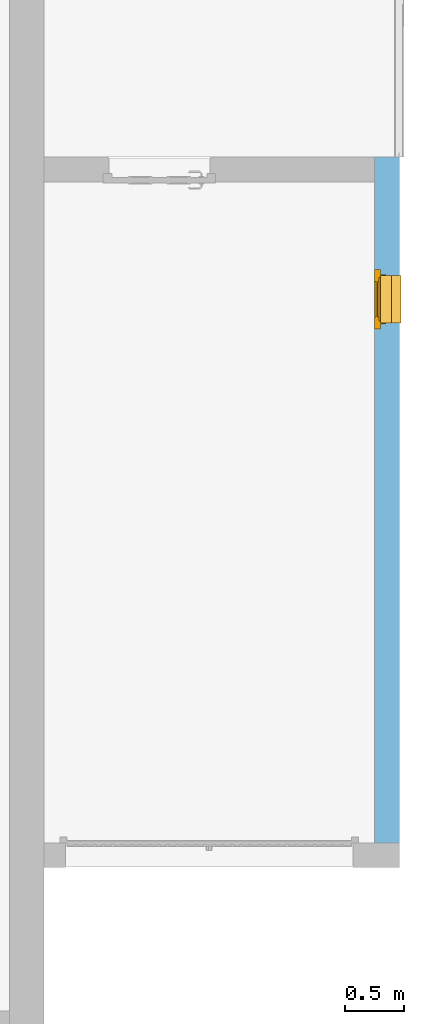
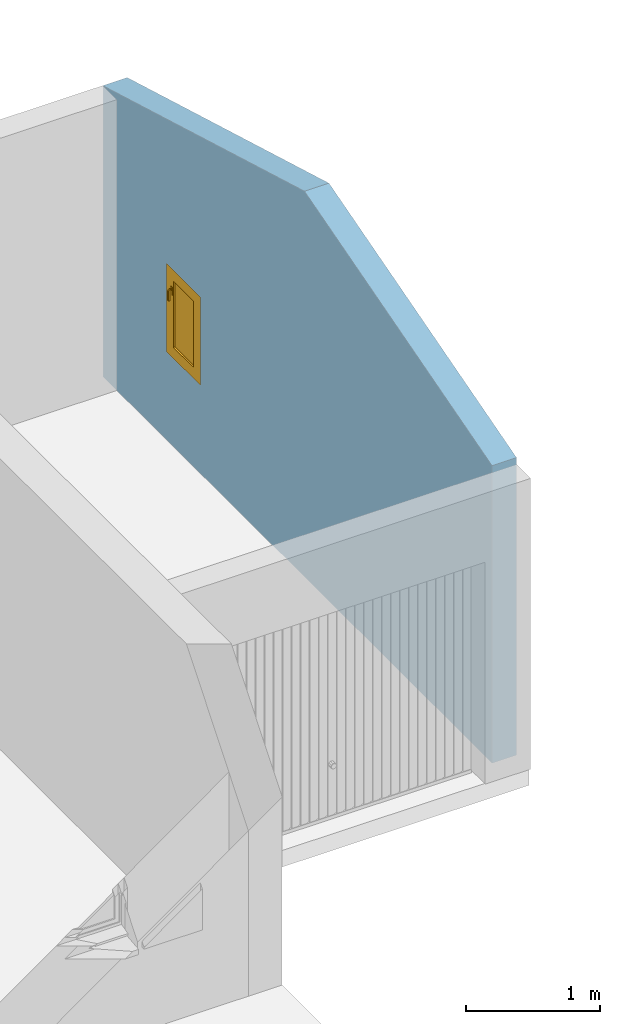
# One storey, part 6 of 6: 1 window, 1 opening, plus 1 element that does not belong to this part.
"""IFC2X3 building model written with IfcOpenShell, lengths in metres."""

from ifc_helpers import new_model, entity, si_unit, converted_unit, derived_unit, direction, frame, frame_2d, origin, place, context, subcontext, project, spatial, polyline, rectangle, extrude, clip, bounded_halfspace, faceted_brep, source, transform, mapped, material, material_list, layer, layer_set, layer_usage, type_object, type_shapes, element, fill, save


model = new_model("IFC2X3")

# Units and contexts
model_context = context("Model", 3, precision=1e-05, world=origin(), true_north=direction((6.12303176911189e-17, 1.0)))
context_of_model = context(None, 3, precision=1e-05, world=origin(), true_north=direction((6.12303176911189e-17, 1.0)))
body_context = subcontext(model_context, "Body", "Model", "MODEL_VIEW")
ifc_project = project(units=[si_unit("LENGTHUNIT", "METRE"), si_unit("AREAUNIT", "SQUARE_METRE"), si_unit("VOLUMEUNIT", "CUBIC_METRE"), converted_unit("PLANEANGLEUNIT", "DEGREE", entity("IfcRatioMeasure", 0.0174532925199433), si_unit("PLANEANGLEUNIT", "RADIAN"), dimensions=[0, 0, 0, 0, 0, 0, 0]), si_unit("MASSUNIT", "GRAM", prefix="KILO"), si_unit("TIMEUNIT", "SECOND"), si_unit("FREQUENCYUNIT", "HERTZ"), si_unit("THERMODYNAMICTEMPERATUREUNIT", "DEGREE_CELSIUS"), derived_unit("THERMALTRANSMITTANCEUNIT", [(si_unit("MASSUNIT", "GRAM", prefix="KILO"), 1), (si_unit("THERMODYNAMICTEMPERATUREUNIT", "KELVIN"), -1), (si_unit("TIMEUNIT", "SECOND"), -3)]), derived_unit("VOLUMETRICFLOWRATEUNIT", [(si_unit("LENGTHUNIT", "METRE"), 3), (si_unit("TIMEUNIT", "SECOND"), -1)]), si_unit("ELECTRICCURRENTUNIT", "AMPERE"), si_unit("ELECTRICVOLTAGEUNIT", "VOLT"), si_unit("POWERUNIT", "WATT"), si_unit("FORCEUNIT", "NEWTON", prefix="KILO"), si_unit("ILLUMINANCEUNIT", "LUX"), si_unit("LUMINOUSFLUXUNIT", "LUMEN"), si_unit("LUMINOUSINTENSITYUNIT", "CANDELA"), si_unit("PRESSUREUNIT", "PASCAL")], contexts=[model_context, context_of_model])

# Site, building, storey
site_placement = place(None, origin())
site = spatial("IfcSite", under=ifc_project, at=site_placement, Name="Surface", CompositionType="ELEMENT")
building_placement = place(site_placement, origin())
building = spatial("IfcBuilding", under=site, at=building_placement, CompositionType="ELEMENT")
storey_placement = place(building_placement, origin())
storey = spatial("IfcBuildingStorey", under=building, at=storey_placement, Name="Niveau 0", CompositionType="ELEMENT", Elevation=-1.94916083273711e-14)

# Wall, opening, window
ifc_material_1 = material(Name="Maçonnerie - Enduit")
ifc_layer_1 = layer(ifc_material_1, 0.01)
ifc_material_2 = material(Name="Eléments de maçonnerie en béton")
ifc_layer_2 = layer(ifc_material_2, 0.2)
ifc_layer_set = layer_set([ifc_layer_1, ifc_layer_2], Name="Mur de base:Ext. Parpaing 20")
ifc_layer_usage = layer_usage(ifc_layer_set, "AXIS2", "POSITIVE", -0.105)
wall_type = type_object("IfcWallType", Name="Mur de base:Ext. Parpaing 20", PredefinedType="STANDARD", material=ifc_layer_set)
wall_placement = place(storey_placement, frame((0.0959083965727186, -5.64858265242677, 0.0), z_axis=(0.0, 0.0, 1.0), x_axis=(0.0, 1.0, 0.0)))
wall = element("IfcWallStandardCase", 1, at=wall_placement, inside=storey, type_object=wall_type, material=ifc_layer_usage, Name="Mur de base:Ext. Parpaing 20", ObjectType="Mur de base:Ext. Parpaing 20", context=body_context, shape_type="Clipping", body=[
    clip(clip(extrude(rectangle(XDim=5.79, YDim=0.21, at=frame_2d((2.895, 1.38777878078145e-17), x_axis=(-1.0, 0.0))), origin(), (0.0, 0.0, 1.0), 3.50023615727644), bounded_halfspace(frame((0.0, -0.105, 2.70021653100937), z_axis=(-0.275637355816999, 0.0, 0.961261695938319), x_axis=(0.0, -1.0, 0.0)), False, frame((0.0, -0.105, 2.70021653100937)), polyline([(0.0, 0.0), (2.79, 0.0), (2.79, 0.21), (0.0, 0.21), (0.0, 0.0)]))), bounded_halfspace(frame((2.79, -0.105, 3.50023615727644), z_axis=(0.275637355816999, 0.0, 0.961261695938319), x_axis=(0.0, 1.0, 0.0)), False, frame((2.79, -0.105, 3.50023615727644)), polyline([(0.0, 0.0), (3.0, 0.0), (3.0, 0.21), (0.0, 0.21), (0.0, 0.0)]))),
])
opening_placement = place(wall_placement, frame((4.34, 0.499999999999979, 0.72), z_axis=(0.0, 0.0, 1.0), x_axis=(0.0, -1.0, 0.0)))
opening = element("IfcOpeningElement", 2, at=opening_placement, cuts=wall, Name="Mur de base:Ext. Parpaing 20", ObjectType="Opening", context=body_context, shape_type="Brep", body=[
    faceted_brep([(0.474999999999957, 0.45, 0.0799999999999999), (0.495000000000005, 0.45, 0.0799999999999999), (0.495000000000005, 0.45, 0.83), (1.0, 0.449999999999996, 0.83), (1.0, 0.449999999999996, 0.0), (0.474999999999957, 0.45, 0.0), (0.0, 0.0500000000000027, 0.0799999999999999), (0.395, 0.05, 0.0799999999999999), (0.395, 0.05, 0.83), (0.0, 0.0500000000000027, 0.83), (0.0, 0.450000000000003, 0.0799999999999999), (0.395000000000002, 0.45, 0.0799999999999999), (0.395000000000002, 0.5, 0.0799999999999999), (0.445000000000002, 0.499999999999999, 0.0799999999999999), (0.445000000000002, 0.46, 0.0799999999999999), (0.495000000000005, 0.459999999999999, 0.0799999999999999), (0.474999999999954, 0.0499999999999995, 0.0799999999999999), (0.495000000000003, 0.0499999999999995, 0.0799999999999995), (0.495000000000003, 0.0399999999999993, 0.0799999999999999), (0.445, 0.0399999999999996, 0.0799999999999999), (0.444999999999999, 0.0, 0.0799999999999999), (0.395, 0.0, 0.0799999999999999), (0.0, 0.450000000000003, 0.83), (0.495000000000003, 0.0499999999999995, 0.83), (1.0, 0.0499999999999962, 0.83), (1.0, 0.0499999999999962, 0.0), (0.474999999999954, 0.0499999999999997, 0.0), (0.395000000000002, 0.5, 0.879999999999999), (0.445000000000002, 0.499999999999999, 0.879999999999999), (0.444999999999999, 0.0, 0.879999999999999), (0.445, 0.0399999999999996, 0.84), (0.445000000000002, 0.46, 0.84), (0.495000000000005, 0.459999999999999, 0.84), (0.495000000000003, 0.0399999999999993, 0.84), (0.395000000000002, 0.45, 0.83), (0.395, 0.0, 0.879999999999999)], [[[0, 1, 2, 3, 4, 5]], [[6, 7, 8, 9]], [[10, 11, 12, 13, 14, 15, 1, 0, 16, 17, 18, 19, 20, 21, 7, 6]], [[10, 6, 9, 22]], [[3, 2, 23, 24]], [[3, 24, 25, 4]], [[4, 25, 26, 5]], [[5, 26, 16, 0]], [[12, 27, 28, 13]], [[13, 28, 29, 20, 19, 30, 31, 14]], [[14, 31, 32, 15]], [[15, 32, 33, 18, 17, 23, 2, 1]], [[11, 34, 8, 7, 21, 35, 27, 12]], [[27, 35, 29, 28]], [[30, 33, 32, 31]], [[29, 35, 21, 20]], [[19, 18, 33, 30]], [[9, 8, 34, 22]], [[24, 23, 17, 16, 26, 25]], [[22, 34, 11, 10]]]),
])
ifc_material_3 = material(Name="Fenêtre - Poignée")
ifc_material_4 = material(Name="Fenêtre - Appui")
ifc_material_5 = material(Name="Fenêtre - Vitrage")
ifc_material_6 = material(Name="Fenêtre - Cadre")
ifc_material_list_1 = material_list([ifc_material_3, ifc_material_4, ifc_material_5, ifc_material_6])
ifc_material_list_2 = material_list([ifc_material_3, ifc_material_4, ifc_material_5, ifc_material_6])
window_style = type_object("IfcWindowStyle", Name="0.40m x 0.75m - Appui Béton", ConstructionType="NOTDEFINED", OperationType="NOTDEFINED", ParameterTakesPrecedence=False, Sizeable=False, material=ifc_material_list_2)
shared_shape = source(origin(), body_context, "Body", "Brep", [
    faceted_brep([(0.0806460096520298, 0.388999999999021, 0.702033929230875), (0.08203392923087, 0.388999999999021, 0.700646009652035), (0.08203392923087, 0.388999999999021, 0.68933230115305), (0.0806676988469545, 0.388999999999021, 0.687966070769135), (0.0693323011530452, 0.388999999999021, 0.687966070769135), (0.0679660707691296, 0.388999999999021, 0.689332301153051), (0.0679660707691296, 0.388999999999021, 0.700646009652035), (0.0693539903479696, 0.388999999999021, 0.702033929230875), (0.0806460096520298, 0.376086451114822, 0.702033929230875), (0.0820339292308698, 0.376661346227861, 0.700646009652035), (0.08203392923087, 0.363353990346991, 0.687338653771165), (0.08203392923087, 0.363353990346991, 0.600000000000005), (0.08203392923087, 0.374667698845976, 0.600000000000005), (0.08203392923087, 0.374667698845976, 0.68265236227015), (0.08203392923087, 0.381347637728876, 0.689332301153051), (0.0806676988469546, 0.38191354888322, 0.687966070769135), (0.0693323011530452, 0.38191354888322, 0.687966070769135), (0.0679660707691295, 0.381347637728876, 0.689332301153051), (0.0679660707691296, 0.374667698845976, 0.68265236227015), (0.0679660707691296, 0.374667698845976, 0.600000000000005), (0.0679660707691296, 0.363353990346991, 0.600000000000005), (0.0679660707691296, 0.363353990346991, 0.687338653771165), (0.0679660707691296, 0.376661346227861, 0.700646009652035), (0.0693539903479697, 0.376086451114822, 0.702033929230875), (0.0806460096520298, 0.361966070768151, 0.687913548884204), (0.0806676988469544, 0.376033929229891, 0.682086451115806), (0.0693323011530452, 0.376033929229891, 0.682086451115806), (0.0693539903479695, 0.361966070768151, 0.687913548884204), (0.0806460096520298, 0.361966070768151, 0.600000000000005), (0.0693539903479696, 0.361966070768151, 0.600000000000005), (0.0693323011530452, 0.376033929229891, 0.600000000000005), (0.0806676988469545, 0.376033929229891, 0.600000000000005)], [[[0, 1, 2, 3, 4, 5, 6, 7]], [[1, 0, 8, 9]], [[2, 1, 9, 10, 11, 12, 13, 14]], [[3, 2, 14, 15]], [[4, 3, 15, 16]], [[5, 4, 16, 17]], [[6, 5, 17, 18, 19, 20, 21, 22]], [[7, 6, 22, 23]], [[0, 7, 23, 8]], [[9, 8, 24, 10]], [[15, 14, 13, 25]], [[16, 15, 25, 26]], [[17, 16, 26, 18]], [[23, 22, 21, 27]], [[8, 23, 27, 24]], [[28, 29, 20, 19, 30, 31, 12, 11]], [[10, 24, 28, 11]], [[25, 13, 12, 31]], [[26, 25, 31, 30]], [[18, 26, 30, 19]], [[27, 21, 20, 29]], [[24, 27, 29, 28]]]),
    faceted_brep([(0.0820000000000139, 0.389, 0.720000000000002), (0.0679999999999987, 0.389, 0.720000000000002), (0.0629999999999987, 0.389, 0.715000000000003), (0.0629999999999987, 0.389, 0.644999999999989), (0.0679999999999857, 0.389, 0.640000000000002), (0.0820000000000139, 0.389, 0.640000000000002), (0.0869999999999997, 0.389, 0.644999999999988), (0.0869999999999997, 0.389, 0.715000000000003), (0.0820000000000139, 0.395, 0.720000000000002), (0.0869999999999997, 0.395, 0.715000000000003), (0.0869999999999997, 0.395, 0.644999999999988), (0.0820000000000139, 0.395, 0.640000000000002), (0.0679999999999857, 0.395, 0.640000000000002), (0.0629999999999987, 0.395, 0.644999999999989), (0.0629999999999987, 0.395, 0.715000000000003), (0.0679999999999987, 0.395, 0.720000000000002)], [[[0, 1, 2, 3, 4, 5, 6, 7]], [[8, 9, 10, 11, 12, 13, 14, 15]], [[1, 0, 8, 15]], [[2, 1, 15, 14]], [[3, 2, 14, 13]], [[4, 3, 13, 12]], [[5, 4, 12, 11]], [[6, 5, 11, 10]], [[7, 6, 10, 9]], [[0, 7, 9, 8]]]),
    faceted_brep([(0.0499999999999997, 0.475000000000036, 0.0799999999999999), (0.0499999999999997, 0.525000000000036, 0.0799999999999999), (0.0499999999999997, 0.525000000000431, 0.0650000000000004), (0.0499999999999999, 0.620000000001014, 0.0550150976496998), (0.0499999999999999, 0.620000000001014, 0.0), (0.0499999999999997, 0.475000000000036, 0.0), (0.45, 0.475000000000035, 0.0799999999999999), (0.45, 0.475000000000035, 0.0), (0.45, 0.620000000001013, 0.0), (0.45, 0.620000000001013, 0.0550150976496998), (0.45, 0.525000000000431, 0.0650000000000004), (0.45, 0.525000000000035, 0.0799999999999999)], [[[0, 1, 2, 3, 4, 5]], [[6, 7, 8, 9, 10, 11]], [[1, 0, 6, 11]], [[2, 1, 11, 10]], [[3, 2, 10, 9]], [[4, 3, 9, 8]], [[5, 4, 8, 7]], [[0, 5, 7, 6]]]),
    faceted_brep([(0.0999999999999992, 0.420999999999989, 0.18), (0.0999999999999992, 0.420999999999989, 0.78), (0.4, 0.420999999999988, 0.78), (0.4, 0.420999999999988, 0.18), (0.0999999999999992, 0.408999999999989, 0.18), (0.0999999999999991, 0.408999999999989, 0.78), (0.4, 0.408999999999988, 0.78), (0.4, 0.408999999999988, 0.18)], [[[0, 1, 2, 3]], [[1, 0, 4, 5]], [[3, 2, 6, 7]], [[0, 3, 7, 4]], [[4, 7, 6, 5]], [[2, 1, 5, 6]]]),
    faceted_brep([(0.0999999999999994, 0.434999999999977, 0.78), (0.0999999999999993, 0.39499999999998, 0.78), (0.0999999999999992, 0.39499999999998, 0.18), (0.0999999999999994, 0.434999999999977, 0.18), (0.4, 0.394999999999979, 0.18), (0.4, 0.434999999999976, 0.18), (0.4, 0.394999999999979, 0.78), (0.45, 0.394999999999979, 0.13), (0.45, 0.394999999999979, 0.83), (0.0499999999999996, 0.39499999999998, 0.83), (0.0499999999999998, 0.39499999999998, 0.13), (0.4, 0.434999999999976, 0.78), (0.05, 0.434999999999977, 0.13), (0.05, 0.434999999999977, 0.83), (0.449999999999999, 0.434999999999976, 0.83), (0.449999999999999, 0.434999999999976, 0.13)], [[[0, 1, 2, 3]], [[3, 2, 4, 5]], [[2, 1, 6, 4], [7, 8, 9, 10]], [[5, 4, 6, 11]], [[5, 11, 0, 3], [12, 13, 14, 15]], [[9, 13, 12, 10]], [[10, 12, 15, 7]], [[7, 15, 14, 8]], [[11, 6, 1, 0]], [[8, 14, 13, 9]]], outer=[[True], [True], [False, True], [True], [False, True], [True], [True], [True], [True], [True]]),
    faceted_brep([(0.0, 0.395, 0.0799999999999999), (0.0, 0.445, 0.0799999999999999), (0.0499999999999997, 0.445, 0.0799999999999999), (0.0499999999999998, 0.529999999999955, 0.0800000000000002), (0.45, 0.529999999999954, 0.0799999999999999), (0.45, 0.445, 0.0799999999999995), (0.499999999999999, 0.445, 0.0799999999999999), (0.499999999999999, 0.395, 0.0799999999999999), (0.0, 0.395, 0.879999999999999), (0.0, 0.445, 0.879999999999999), (0.499999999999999, 0.445, 0.879999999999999), (0.45, 0.445, 0.119376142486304), (0.0499999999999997, 0.445, 0.119376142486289), (0.0649999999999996, 0.445, 0.815), (0.0649999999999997, 0.445, 0.145), (0.435, 0.445, 0.145), (0.435, 0.445, 0.815), (0.0499999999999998, 0.539999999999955, 0.0939209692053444), (0.0499999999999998, 0.539999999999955, 0.0749999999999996), (0.0499999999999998, 0.529999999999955, 0.0749999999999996), (0.45, 0.529999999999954, 0.0749999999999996), (0.45, 0.539999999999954, 0.0749999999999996), (0.45, 0.539999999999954, 0.0939209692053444), (0.499999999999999, 0.395, 0.879999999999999), (0.45, 0.395, 0.83), (0.45, 0.395, 0.13), (0.0499999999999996, 0.395000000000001, 0.13), (0.0499999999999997, 0.395, 0.83), (0.0649999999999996, 0.435, 0.815), (0.0649999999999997, 0.435, 0.145), (0.435, 0.435, 0.145), (0.435, 0.435, 0.815), (0.45, 0.435, 0.83), (0.0499999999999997, 0.435, 0.83), (0.0499999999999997, 0.435, 0.13), (0.45, 0.435, 0.13)], [[[0, 1, 2, 3, 4, 5, 6, 7]], [[1, 0, 8, 9]], [[1, 9, 10, 6, 5, 11, 12, 2], [13, 14, 15, 16]], [[12, 17, 18, 19, 3, 2]], [[3, 19, 20, 4]], [[4, 20, 21, 22, 11, 5]], [[6, 10, 23, 7]], [[0, 7, 23, 8], [24, 25, 26, 27]], [[13, 28, 29, 14]], [[29, 30, 15, 14]], [[31, 16, 15, 30]], [[17, 12, 11, 22]], [[32, 33, 34, 35], [28, 31, 30, 29]], [[34, 33, 27, 26]], [[26, 25, 35, 34]], [[24, 32, 35, 25]], [[18, 17, 22, 21]], [[19, 18, 21, 20]], [[13, 16, 31, 28]], [[33, 32, 24, 27]], [[10, 9, 8, 23]]]),
    faceted_brep([(0.0499999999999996, 0.495000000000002, 0.0799999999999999), (0.0499999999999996, 0.444999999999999, 0.0799999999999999), (0.0399999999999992, 0.444999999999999, 0.0799999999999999), (0.0399999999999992, 0.495000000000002, 0.0799999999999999), (0.0499999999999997, 0.495000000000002, 0.83), (0.0499999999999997, 0.444999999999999, 0.83), (0.45, 0.444999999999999, 0.83), (0.45, 0.444999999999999, 0.0799999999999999), (0.46, 0.444999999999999, 0.0799999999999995), (0.46, 0.444999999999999, 0.84), (0.0399999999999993, 0.444999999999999, 0.84), (0.0399999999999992, 0.495000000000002, 0.84), (0.46, 0.495000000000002, 0.84), (0.46, 0.495000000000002, 0.0799999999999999), (0.45, 0.495000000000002, 0.0799999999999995), (0.45, 0.495000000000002, 0.83)], [[[0, 1, 2, 3]], [[1, 0, 4, 5]], [[2, 1, 5, 6, 7, 8, 9, 10]], [[3, 2, 10, 11]], [[0, 3, 11, 12, 13, 14, 15, 4]], [[6, 15, 14, 7]], [[14, 13, 8, 7]], [[12, 9, 8, 13]], [[5, 4, 15, 6]], [[11, 10, 9, 12]]]),
])
type_shapes(window_style, [shared_shape])
window_placement = place(storey_placement, frame((-0.40409160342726, -0.808582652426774, 0.72), z_axis=(0.0, 0.0, 1.0), x_axis=(0.0, -1.0, 0.0)))
window = element("IfcWindow", 3, at=window_placement, inside=storey, type_object=window_style, material=ifc_material_list_1, Name="1 Vantail droit - Volet et petits bois:0.40m x 0.75m - Appui Béton", ObjectType="0.40m x 0.75m - Appui Béton", OverallHeight=1.08, OverallWidth=0.5, context=body_context, shape_type="MappedRepresentation", body=[
    mapped(shared_shape, transform((0.0, 0.0, 0.0), scale=1.0)),
])
fill(opening, window)

save(model, "model.ifc")
